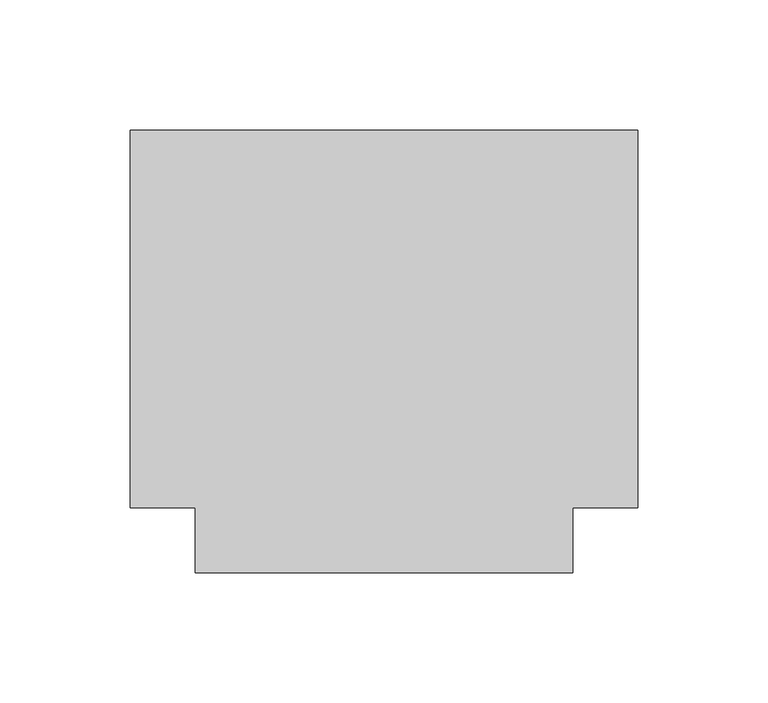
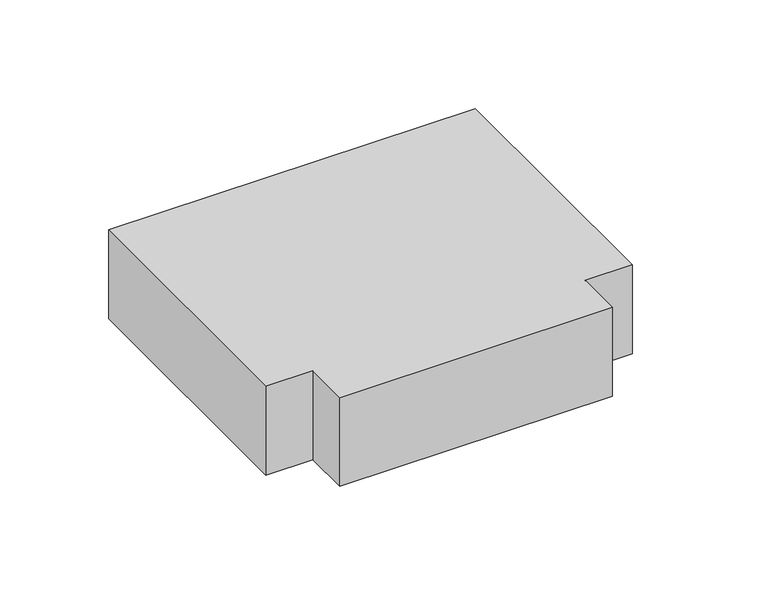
"""IFC4 building model written with IfcOpenShell, lengths in millimetres: duct fitting geometry, КНС_Тройник_DKC : Тройник (Т-образный отвод)."""

from ifc_helpers import new_model, si_unit, frame, origin, place, context, project, spatial, polyline, outline, extrude, source, transform, mapped, element, save


def duct_fitting_f061914f(model_context):
    return source(origin(), model_context, "Body", "SweptSolid", [
        extrude(outline(polyline([(-97.5, -72.5), (-97.5, 72.5), (97.5, 72.5), (97.5, -72.5), (72.5, -72.5), (72.5, -97.5), (-72.5, -97.5), (-72.5, -72.5), (-97.5, -72.5)])), frame((0.0, 0.0, -25.0), z_axis=(0.0, 0.0, 1.0), x_axis=(1.0, 0.0, 0.0)), (0.0, 0.0, 1.0), 50.0),
    ])


if __name__ == "__main__":
    model = new_model("IFC4")
    model_context = context("Model", 3, world=origin())
    ifc_project = project(units=[si_unit("LENGTHUNIT", "METRE", prefix="MILLI")], contexts=[model_context])
    site = spatial("IfcSite", under=ifc_project)
    building = spatial("IfcBuilding", under=site)
    placement = place(None, origin())
    duct_fitting_shape = duct_fitting_f061914f(model_context)
    element("IfcDuctFitting", 1, ObjectType="КНС_Тройник_DKC : Тройник (Т-образный отвод)", at=placement, inside=building, context=model_context, shape_type="MappedRepresentation", body=[
        mapped(duct_fitting_shape, transform((0.0, 0.0, 0.0), x_axis=(1.0, 0.0, 0.0), y_axis=(0.0, 1.0, 0.0), z_axis=(0.0, 0.0, 1.0))),
    ])
    save(model, "model.ifc")
